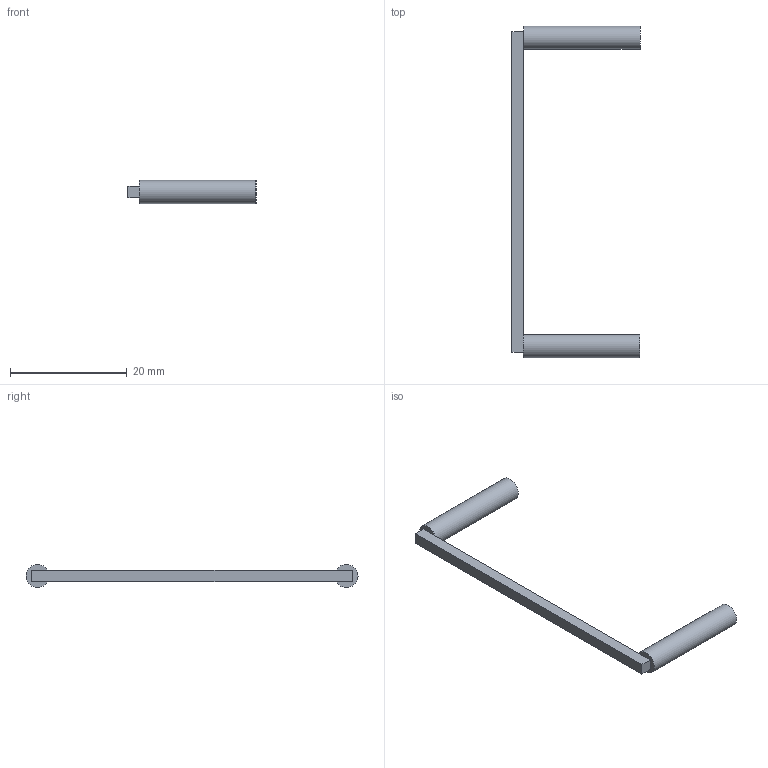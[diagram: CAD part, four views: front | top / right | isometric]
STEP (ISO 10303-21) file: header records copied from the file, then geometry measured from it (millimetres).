
FILE_DESCRIPTION(/* description */ ('STEP AP242 Edition 2','CAx-IF Rec.Pracs.---Representation and Presentation of Product Manufacturing Information (PMI)---4.0---2014-10-13','CAx-IF Rec.Pracs.---3D Tessellated Geometry---0.4---2014-09-14','2;1','CAx-IF Rec.Pracs.---User Defined Attributes---1.5---2016-08-15'),/* implementation_level */ '2;1');
FILE_NAME(/* name */ 'Assembly 1 - Part 12 (1)',/* time_stamp */ '2026-08-25T12:51:59Z',/* author */ (''),/* organization */ (''),/* preprocessor_version */ 'ST-DEVELOPER v20',/* originating_system */ 'ONSHAPE BY PTC INC, 1.219',/* authorisation */ ' ');
FILE_SCHEMA (('AP242_MANAGED_MODEL_BASED_3D_ENGINEERING_MIM_LF { 1 0 10303 442 3 1 4 }'));
Length unit declared in the file: metre
Products named in the file (1): Part 12
Bounding box: 22 x 56.99 x 4 mm (x, y, z)
Volume: 716.8 mm3; surface area: 976.4 mm2
Topology: 1 solids, 1 shells, 13 faces, 28 edges, 18 vertices
Faces by surface type: plane 11, cylinder 2
Full cylindrical faces by diameter (mm): 3.98 x1, 4 x1
Entity records: 354 total; most frequent: DIRECTION 58, CARTESIAN_POINT 56, ORIENTED_EDGE 50, EDGE_CURVE 25, LINE 20, VECTOR 20, AXIS2_PLACEMENT_3D 19, VERTEX_POINT 17
